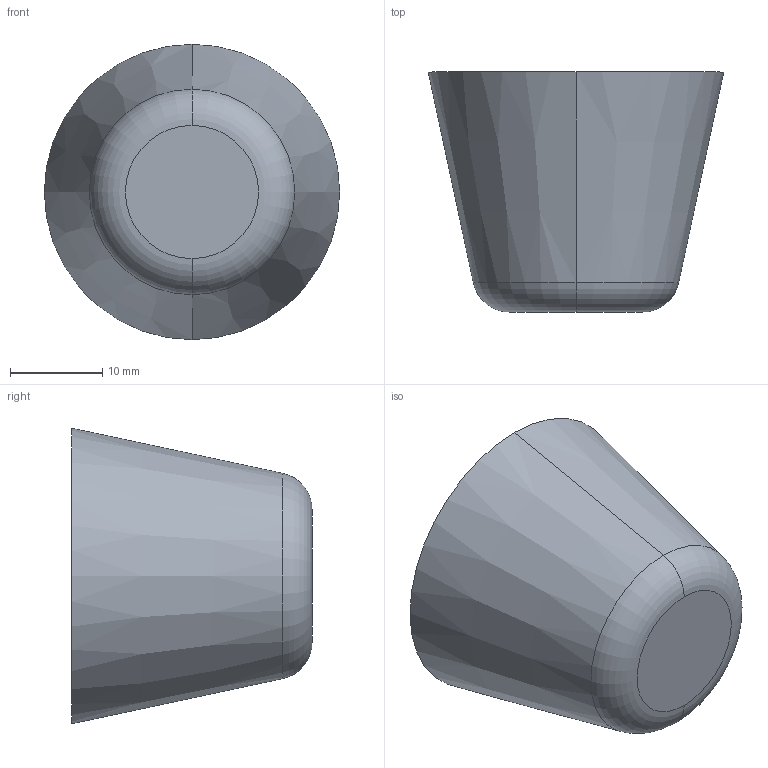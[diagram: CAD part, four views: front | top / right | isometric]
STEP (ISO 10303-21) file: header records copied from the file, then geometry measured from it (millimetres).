
FILE_DESCRIPTION (( 'STEP AP214' ), '1' );
FILE_NAME ('253-32-M8-55.step', '2023-03-24T07:37:56', ( '' ), ( '' ), 'SwSTEP 2.0', 'SolidWorks 2022', '' );
FILE_SCHEMA (( 'AUTOMOTIVE_DESIGN' ));
Length unit declared in the file: millimetre
Products named in the file (1): 253-32-M8-55
Bounding box: 32 x 26 x 32 mm (x, y, z)
Volume: 14032.9 mm3; surface area: 3476.2 mm2
Topology: 1 solids, 1 shells, 16 faces, 32 edges, 19 vertices
Faces by surface type: cone 6, cylinder 4, plane 4, torus 2
Entity records: 554 total; most frequent: DIRECTION 84, CARTESIAN_POINT 66, ORIENTED_EDGE 60, AXIS2_PLACEMENT_3D 37, EDGE_CURVE 30, CIRCLE 20, EDGE_LOOP 19, VERTEX_POINT 19
